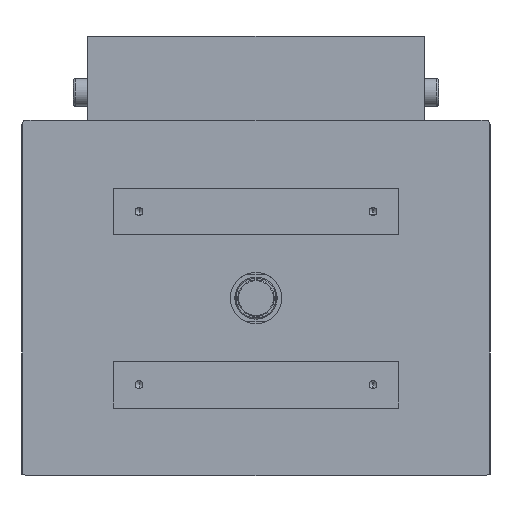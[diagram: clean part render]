
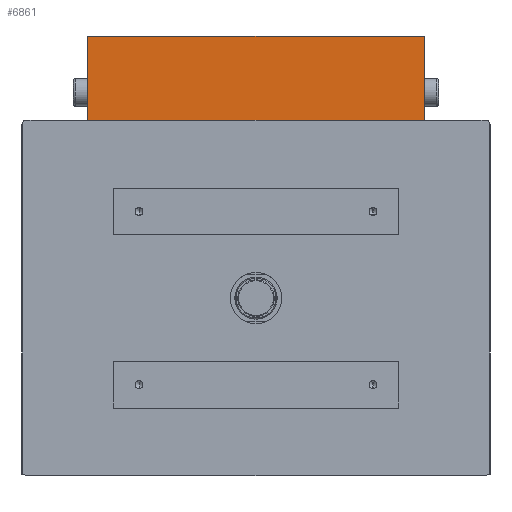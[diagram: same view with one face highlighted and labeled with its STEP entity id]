
A CAD part, front view. The second image highlights one B-rep face of the part: STEP entity #6861.
In plain terms, the highlighted planar face has unit normal (0, -1, 0).
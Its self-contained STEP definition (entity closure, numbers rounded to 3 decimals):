
#1283 = ORIENTED_EDGE ( 'NONE', *, *, #16149, .F. ) ;
#1641 = AXIS2_PLACEMENT_3D ( 'NONE', #4013, #3954, #3899 ) ;
#2624 = VECTOR ( 'NONE', #13412, 1000. ) ;
#3296 = VERTEX_POINT ( 'NONE', #16338 ) ;
#3899 = DIRECTION ( 'NONE',  ( 0., 0., 1. ) ) ;
#3954 = DIRECTION ( 'NONE',  ( 0., 1., 0. ) ) ;
#4013 = CARTESIAN_POINT ( 'NONE',  ( 180., -35., 280. ) ) ;
#4144 = PLANE ( 'NONE',  #1641 ) ;
#5169 = VECTOR ( 'NONE', #13162, 1000. ) ;
#5673 = VECTOR ( 'NONE', #10968, 1000. ) ;
#6351 = VERTEX_POINT ( 'NONE', #12359 ) ;
#6381 = FACE_OUTER_BOUND ( 'NONE', #9549, .T. ) ;
#6861 = ADVANCED_FACE ( 'NONE', ( #6381 ), #4144, .F. ) ;
#7860 = CARTESIAN_POINT ( 'NONE',  ( 180., -35., 280. ) ) ;
#9549 = EDGE_LOOP ( 'NONE', ( #13677, #1283, #9961, #10467 ) ) ;
#9765 = VERTEX_POINT ( 'NONE', #12778 ) ;
#9776 = VECTOR ( 'NONE', #11536, 1000. ) ;
#9961 = ORIENTED_EDGE ( 'NONE', *, *, #11400, .F. ) ;
#10467 = ORIENTED_EDGE ( 'NONE', *, *, #16510, .T. ) ;
#10968 = DIRECTION ( 'NONE',  ( -1., 0., 0. ) ) ;
#11400 = EDGE_CURVE ( 'NONE', #14521, #3296, #15725, .T. ) ;
#11536 = DIRECTION ( 'NONE',  ( 0., 0., -1. ) ) ;
#11757 = LINE ( 'NONE', #7860, #2624 ) ;
#11974 = CARTESIAN_POINT ( 'NONE',  ( 180., -35., 280. ) ) ;
#12359 = CARTESIAN_POINT ( 'NONE',  ( -180., -35., 190. ) ) ;
#12778 = CARTESIAN_POINT ( 'NONE',  ( -180., -35., 280. ) ) ;
#13039 = LINE ( 'NONE', #17036, #9776 ) ;
#13162 = DIRECTION ( 'NONE',  ( 0., 0., -1. ) ) ;
#13412 = DIRECTION ( 'NONE',  ( -1., 0., 0. ) ) ;
#13677 = ORIENTED_EDGE ( 'NONE', *, *, #16352, .T. ) ;
#14521 = VERTEX_POINT ( 'NONE', #17634 ) ;
#15725 = LINE ( 'NONE', #11974, #5169 ) ;
#16149 = EDGE_CURVE ( 'NONE', #3296, #6351, #17027, .T. ) ;
#16338 = CARTESIAN_POINT ( 'NONE',  ( 180., -35., 190. ) ) ;
#16352 = EDGE_CURVE ( 'NONE', #9765, #6351, #13039, .T. ) ;
#16510 = EDGE_CURVE ( 'NONE', #14521, #9765, #11757, .T. ) ;
#17027 = LINE ( 'NONE', #17697, #5673 ) ;
#17036 = CARTESIAN_POINT ( 'NONE',  ( -180., -35., 280. ) ) ;
#17634 = CARTESIAN_POINT ( 'NONE',  ( 180., -35., 280. ) ) ;
#17697 = CARTESIAN_POINT ( 'NONE',  ( 180., -35., 190. ) ) ;
